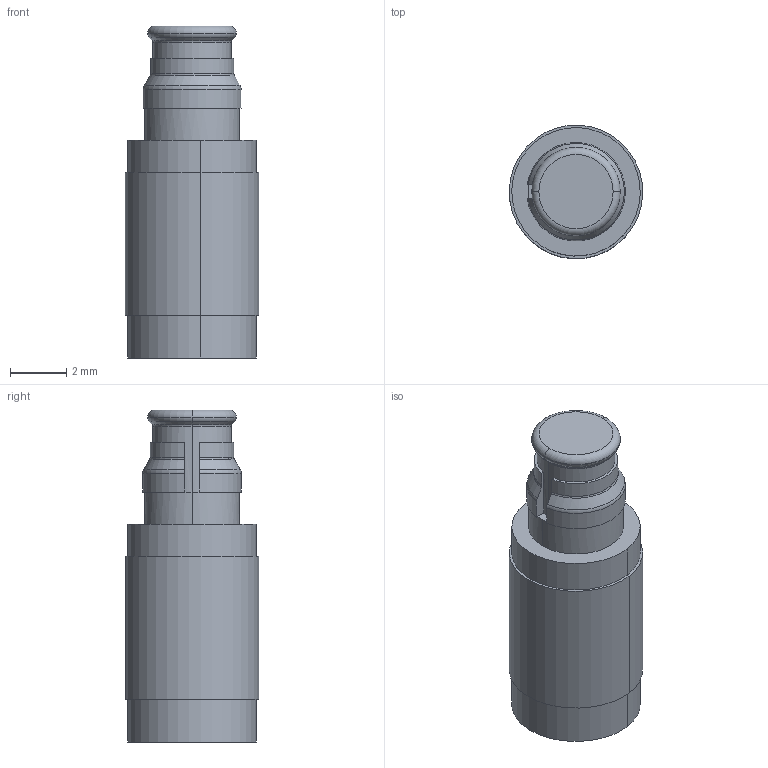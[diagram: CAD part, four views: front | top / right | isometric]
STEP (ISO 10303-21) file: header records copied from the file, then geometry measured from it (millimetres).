
FILE_DESCRIPTION (( 'STEP AP214' ), '1' );
FILE_NAME ('1112-4009.STEP', '2015-10-05T14:33:46', ( '' ), ( '' ), 'SwSTEP 2.0', 'SolidWorks 2015', '' );
FILE_SCHEMA (( 'AUTOMOTIVE_DESIGN' ));
Length unit declared in the file: inch
Products named in the file (1): 1112-4009
Bounding box: 4.75 x 4.75 x 11.81 mm (x, y, z)
Volume: 142.7 mm3; surface area: 220.1 mm2
Topology: 1 solids, 1 shells, 53 faces, 114 edges, 68 vertices
Faces by surface type: cylinder 22, plane 12, torus 10, cone 9
Entity records: 2198 total; most frequent: DIRECTION 284, CARTESIAN_POINT 273, ORIENTED_EDGE 228, AXIS2_PLACEMENT_3D 122, EDGE_CURVE 114, CIRCLE 68, VERTEX_POINT 68, EDGE_LOOP 58
